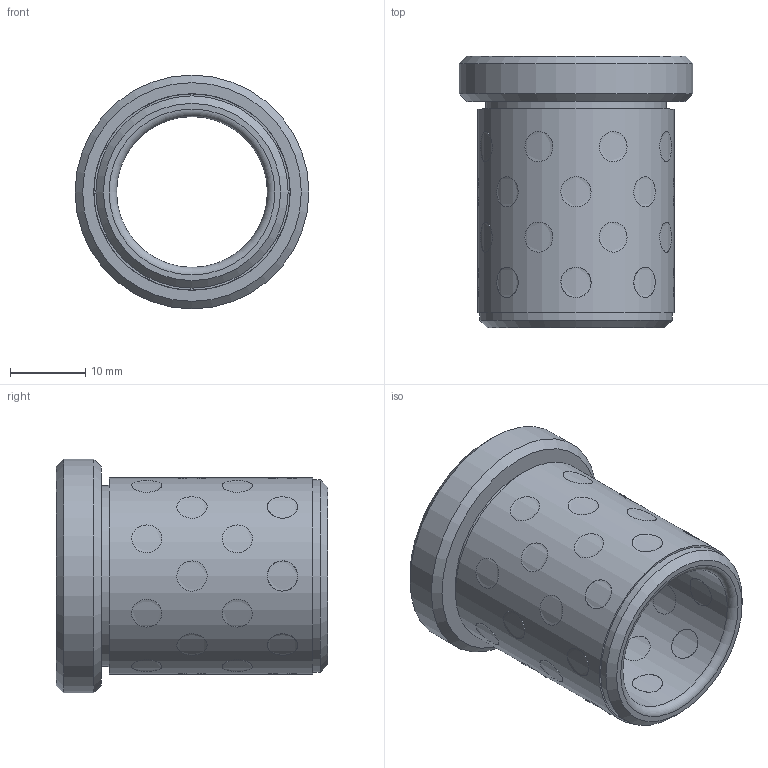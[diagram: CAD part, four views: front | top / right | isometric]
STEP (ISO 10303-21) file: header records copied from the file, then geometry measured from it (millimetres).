
FILE_DESCRIPTION( ( 'STEP AP203' ), '1' );
FILE_NAME( 'D:/Cuma/D30.05/D30.05_2036.step', '2003-01-20T18:35:08', ( ' ' ), ( ' ' ), 'XStep 1.0', ' ', ' ' );
FILE_SCHEMA( ( 'CONFIG_CONTROL_DESIGN' ) );
Length unit declared in the file: metre
Products named in the file (41): 1; 2; 3; 4; 5; 6; 7; 8; 9; 10; 11; 12; 13; 14; 15; 16; 17; 18; 19; 20; 21; 22; 23; 24; 25; 26; 27; 28; 29; 30; 31; 32; 33; 34; 35; 36; 37; 38; 39; 40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
Bounding box: 31 x 36 x 31 mm (x, y, z)
Volume: 10337.1 mm3; surface area: 8611.1 mm2
Topology: 41 solids, 41 shells, 135 faces, 145 edges, 95 vertices
Faces by surface type: cylinder 125, plane 5, cone 3, torus 2
Full cylindrical faces by diameter (mm): 4 x40, 20 x1, 24 x1, 25.5 x1, 26 x1, 31 x1
Entity records: 8193 total; most frequent: CARTESIAN_POINT 4686, DIRECTION 382, CC_DESIGN_PERSON_AND_ORGANIZATION_ASSIGNMENT 205, AXIS2_PLACEMENT_3D 191, EDGE_LOOP 190, ORIENTED_EDGE 190, FACE_OUTER_BOUND 182, PERSON_AND_ORGANIZATION_ROLE 164
